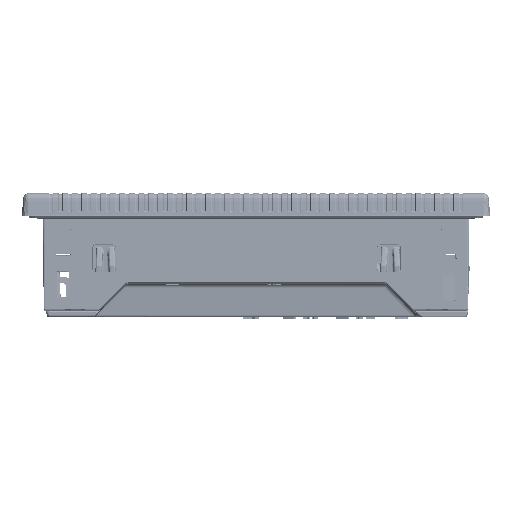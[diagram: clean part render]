
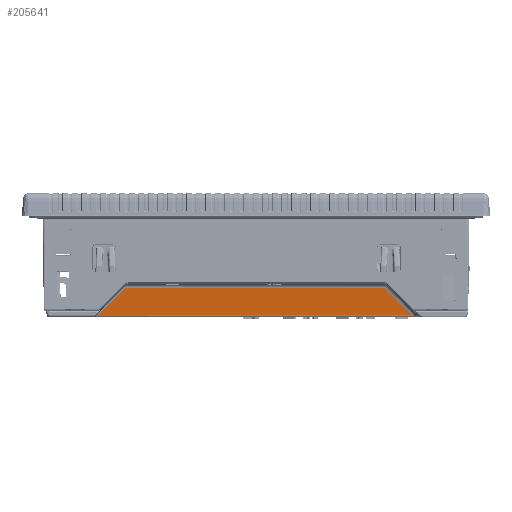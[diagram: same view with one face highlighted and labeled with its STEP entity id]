
A CAD part, left-side view. The second image highlights one B-rep face of the part: STEP entity #205641.
In plain terms, the highlighted planar face has unit normal (-0.996, 0, -0.087).
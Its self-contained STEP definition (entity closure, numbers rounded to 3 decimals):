
#18760=LINE('',#335072,#34568);
#19464=LINE('',#358013,#35272);
#20166=LINE('',#370417,#35974);
#20167=LINE('',#370418,#35975);
#34568=VECTOR('',#251071,10.);
#35272=VECTOR('',#254457,10.);
#35974=VECTOR('',#257101,10.);
#35975=VECTOR('',#257102,10.);
#52168=FACE_OUTER_BOUND('',#65115,.T.);
#65115=EDGE_LOOP('',(#158234,#158235,#158236,#158237));
#89267=VERTEX_POINT('',#335069);
#89268=VERTEX_POINT('',#335071);
#90497=VERTEX_POINT('',#358010);
#90498=VERTEX_POINT('',#358012);
#111507=EDGE_CURVE('',#89267,#89268,#18760,.T.);
#113477=EDGE_CURVE('',#90497,#90498,#19464,.T.);
#115030=EDGE_CURVE('',#89268,#90497,#20166,.T.);
#115031=EDGE_CURVE('',#90498,#89267,#20167,.T.);
#158234=ORIENTED_EDGE('',*,*,#115030,.F.);
#158235=ORIENTED_EDGE('',*,*,#111507,.F.);
#158236=ORIENTED_EDGE('',*,*,#115031,.F.);
#158237=ORIENTED_EDGE('',*,*,#113477,.F.);
#199426=PLANE('',#219713);
#205641=ADVANCED_FACE('',(#52168),#199426,.F.);
#219713=AXIS2_PLACEMENT_3D('',#370416,#257099,#257100);
#251071=DIRECTION('',(0.,-1.,0.));
#254457=DIRECTION('',(0.,1.,0.));
#257099=DIRECTION('center_axis',(0.996,0.,
0.087));
#257100=DIRECTION('ref_axis',(0.,1.,0.));
#257101=DIRECTION('',(0.062,-0.706,-0.706));
#257102=DIRECTION('',(-0.062,-0.706,0.706));
#335069=CARTESIAN_POINT('',(-12.895,48.358,-32.178));
#335071=CARTESIAN_POINT('',(-12.895,-47.579,-32.178));
#335072=CARTESIAN_POINT('',(-12.895,-70.158,-32.178));
#358010=CARTESIAN_POINT('',(-12.028,-57.488,-42.087));
#358012=CARTESIAN_POINT('',(-12.028,58.268,-42.087));
#358013=CARTESIAN_POINT('',(-12.028,-31.587,-42.087));
#370416=CARTESIAN_POINT('Origin',(-11.979,-63.174,-42.651));
#370417=CARTESIAN_POINT('',(-12.288,-54.525,-39.124));
#370418=CARTESIAN_POINT('',(-14.676,28.004,-11.824));
